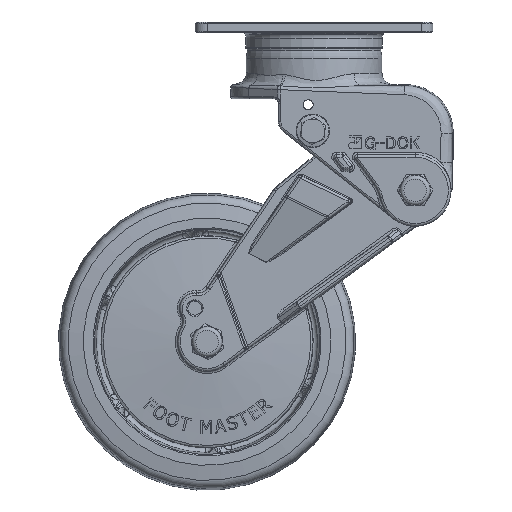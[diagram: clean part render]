
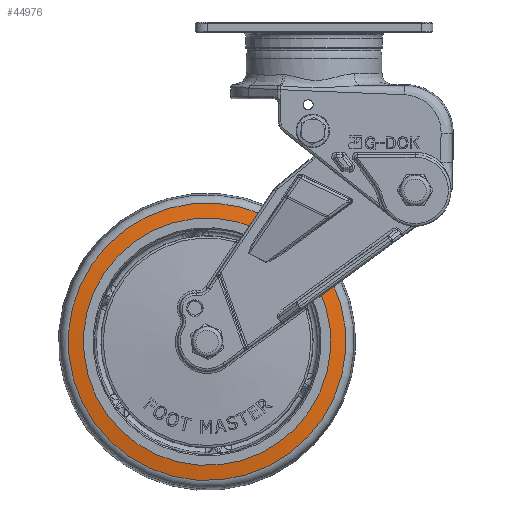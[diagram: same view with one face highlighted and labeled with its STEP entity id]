
A CAD part, front view. The second image highlights one B-rep face of the part: STEP entity #44976.
In plain terms, the highlighted conical face has half-angle 80.918 degrees and reference radius 55.194 mm.
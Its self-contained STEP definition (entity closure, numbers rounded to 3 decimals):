
#4828=FACE_OUTER_BOUND('',#7553,.T.);
#7553=EDGE_LOOP('',(#28633,#28634,#28635,#28636,#28637));
#10435=LINE('',#62687,#13147);
#13147=VECTOR('',#51827,55.194);
#15863=CIRCLE('',#47732,58.373);
#15864=CIRCLE('',#47733,58.373);
#15865=CIRCLE('',#47734,52.016);
#17762=VERTEX_POINT('',#62682);
#17763=VERTEX_POINT('',#62683);
#17764=VERTEX_POINT('',#62686);
#21899=EDGE_CURVE('',#17762,#17763,#15863,.T.);
#21900=EDGE_CURVE('',#17763,#17762,#15864,.T.);
#21901=EDGE_CURVE('',#17763,#17764,#10435,.T.);
#21902=EDGE_CURVE('',#17764,#17764,#15865,.T.);
#28633=ORIENTED_EDGE('',*,*,#21899,.F.);
#28634=ORIENTED_EDGE('',*,*,#21900,.F.);
#28635=ORIENTED_EDGE('',*,*,#21901,.T.);
#28636=ORIENTED_EDGE('',*,*,#21902,.T.);
#28637=ORIENTED_EDGE('',*,*,#21901,.F.);
#42085=CONICAL_SURFACE('',#47731,55.194,1.412);
#44976=ADVANCED_FACE('',(#4828),#42085,.T.);
#47731=AXIS2_PLACEMENT_3D('',#62681,#51821,#51822);
#47732=AXIS2_PLACEMENT_3D('',#62684,#51823,#51824);
#47733=AXIS2_PLACEMENT_3D('',#62685,#51825,#51826);
#47734=AXIS2_PLACEMENT_3D('',#62688,#51828,#51829);
#51821=DIRECTION('center_axis',(0.,1.,0.));
#51822=DIRECTION('ref_axis',(0.809,0.,0.588));
#51823=DIRECTION('center_axis',(0.,1.,0.));
#51824=DIRECTION('ref_axis',(-0.588,0.,0.809));
#51825=DIRECTION('center_axis',(0.,1.,0.));
#51826=DIRECTION('ref_axis',(-0.588,0.,0.809));
#51827=DIRECTION('',(0.799,-0.158,0.581));
#51828=DIRECTION('center_axis',(0.,1.,0.));
#51829=DIRECTION('ref_axis',(0.809,0.,0.588));
#62681=CARTESIAN_POINT('Origin',(-45.,-14.492,-134.456));
#62682=CARTESIAN_POINT('',(-10.66,-13.984,-181.659));
#62683=CARTESIAN_POINT('',(-92.203,-13.984,-168.796));
#62684=CARTESIAN_POINT('Origin',(-45.,-13.984,-134.456));
#62685=CARTESIAN_POINT('Origin',(-45.,-13.984,-134.456));
#62686=CARTESIAN_POINT('',(-87.063,-15.,-165.057));
#62687=CARTESIAN_POINT('',(-89.633,-14.492,-166.927));
#62688=CARTESIAN_POINT('Origin',(-45.,-15.,-134.456));
